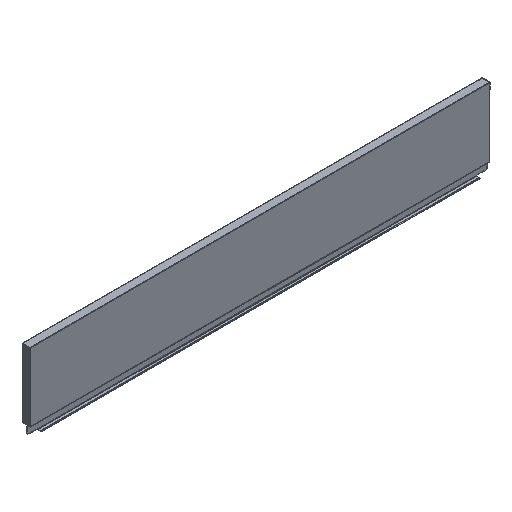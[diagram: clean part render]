
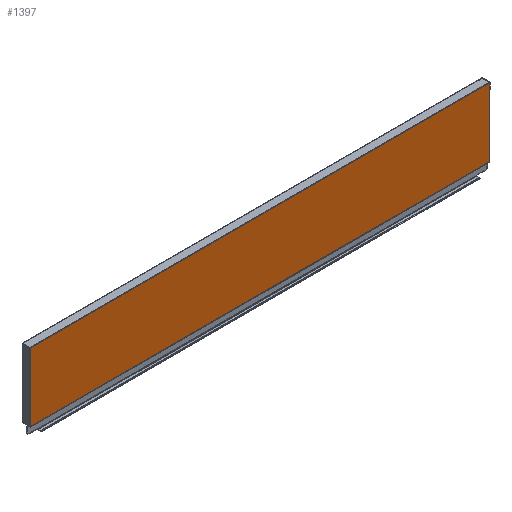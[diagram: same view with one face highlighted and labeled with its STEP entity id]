
A CAD part, isometric view. The second image highlights one B-rep face of the part: STEP entity #1397.
In plain terms, the highlighted planar face has unit normal (0, -1, 0).
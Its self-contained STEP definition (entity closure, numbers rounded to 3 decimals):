
#44 = VERTEX_POINT ( 'NONE', #445 ) ;
#307 = CARTESIAN_POINT ( 'NONE',  ( -453.5, -6., 17. ) ) ;
#331 = CARTESIAN_POINT ( 'NONE',  ( 454., -6., 152. ) ) ;
#336 = CARTESIAN_POINT ( 'NONE',  ( -454., -6., 151.5 ) ) ;
#355 = CARTESIAN_POINT ( 'NONE',  ( -453.5, -6., 17.5 ) ) ;
#356 = CARTESIAN_POINT ( 'NONE',  ( -454., -6., 17.5 ) ) ;
#363 = CARTESIAN_POINT ( 'NONE',  ( 453.5, -6., 17. ) ) ;
#370 = CARTESIAN_POINT ( 'NONE',  ( 454., -6., 17.5 ) ) ;
#373 = CARTESIAN_POINT ( 'NONE',  ( 453.5, -6., 17.5 ) ) ;
#382 = CARTESIAN_POINT ( 'NONE',  ( 454., -6., 151.5 ) ) ;
#445 = CARTESIAN_POINT ( 'NONE',  ( -454., -6., 152. ) ) ;
#457 = VERTEX_POINT ( 'NONE', #382 ) ;
#466 = VERTEX_POINT ( 'NONE', #373 ) ;
#470 = VERTEX_POINT ( 'NONE', #370 ) ;
#475 = VERTEX_POINT ( 'NONE', #363 ) ;
#485 = VERTEX_POINT ( 'NONE', #356 ) ;
#487 = VERTEX_POINT ( 'NONE', #355 ) ;
#520 = VERTEX_POINT ( 'NONE', #336 ) ;
#525 = VERTEX_POINT ( 'NONE', #331 ) ;
#546 = VERTEX_POINT ( 'NONE', #307 ) ;
#809 = ORIENTED_EDGE ( 'NONE', *, *, #2147, .T. ) ;
#810 = ORIENTED_EDGE ( 'NONE', *, *, #2148, .F. ) ;
#811 = ORIENTED_EDGE ( 'NONE', *, *, #2149, .F. ) ;
#812 = ORIENTED_EDGE ( 'NONE', *, *, #2482, .F. ) ;
#813 = ORIENTED_EDGE ( 'NONE', *, *, #2137, .T. ) ;
#814 = ORIENTED_EDGE ( 'NONE', *, *, #2138, .T. ) ;
#815 = ORIENTED_EDGE ( 'NONE', *, *, #2139, .T. ) ;
#816 = ORIENTED_EDGE ( 'NONE', *, *, #2140, .T. ) ;
#817 = ORIENTED_EDGE ( 'NONE', *, *, #2343, .T. ) ;
#818 = ORIENTED_EDGE ( 'NONE', *, *, #2340, .T. ) ;
#925 = FACE_OUTER_BOUND ( 'NONE', #1529, .T. ) ;
#932 = LINE ( 'NONE', #1949, #933 ) ;
#933 = VECTOR ( 'NONE', #1947, 1000. ) ;
#934 = LINE ( 'NONE', #1943, #935 ) ;
#935 = VECTOR ( 'NONE', #1939, 1000. ) ;
#936 = LINE ( 'NONE', #1936, #937 ) ;
#937 = VECTOR ( 'NONE', #1933, 1000. ) ;
#938 = LINE ( 'NONE', #1929, #939 ) ;
#939 = VECTOR ( 'NONE', #1926, 1000. ) ;
#952 = LINE ( 'NONE', #2106, #953 ) ;
#953 = VECTOR ( 'NONE', #2105, 1000. ) ;
#954 = LINE ( 'NONE', #2102, #955 ) ;
#955 = VECTOR ( 'NONE', #2101, 1000. ) ;
#956 = LINE ( 'NONE', #2100, #957 ) ;
#957 = VECTOR ( 'NONE', #2099, 1000. ) ;
#1298 = LINE ( 'NONE', #1800, #1299 ) ;
#1299 = VECTOR ( 'NONE', #1801, 1000. ) ;
#1301 = LINE ( 'NONE', #1808, #1303 ) ;
#1303 = VECTOR ( 'NONE', #1809, 1000. ) ;
#1314 = LINE ( 'NONE', #1824, #1315 ) ;
#1315 = VECTOR ( 'NONE', #1825, 1000. ) ;
#1397 = ADVANCED_FACE ( 'NONE', ( #925 ), #1992, .T. ) ;
#1529 = EDGE_LOOP ( 'NONE', ( #818, #817, #816, #815, #814, #813, #812, #811, #810, #809 ) ) ;
#1800 = CARTESIAN_POINT ( 'NONE',  ( -454., -6., 170.385 ) ) ;
#1801 = DIRECTION ( 'NONE',  ( 0., 0., -1. ) ) ;
#1808 = CARTESIAN_POINT ( 'NONE',  ( -455., -6., 17.5 ) ) ;
#1809 = DIRECTION ( 'NONE',  ( 1., 0., 0. ) ) ;
#1824 = CARTESIAN_POINT ( 'NONE',  ( 454., -6., 170.385 ) ) ;
#1825 = DIRECTION ( 'NONE',  ( 0., 0., -1. ) ) ;
#1926 = DIRECTION ( 'NONE',  ( 0., 0., -1. ) ) ;
#1929 = CARTESIAN_POINT ( 'NONE',  ( -453.5, -6., 17.5 ) ) ;
#1933 = DIRECTION ( 'NONE',  ( 1., 0., 0. ) ) ;
#1936 = CARTESIAN_POINT ( 'NONE',  ( -455., -6., 17. ) ) ;
#1939 = DIRECTION ( 'NONE',  ( 0., 0., 1. ) ) ;
#1943 = CARTESIAN_POINT ( 'NONE',  ( 453.5, -6., 15.3 ) ) ;
#1947 = DIRECTION ( 'NONE',  ( 1., 0., 0. ) ) ;
#1949 = CARTESIAN_POINT ( 'NONE',  ( 453.5, -6., 17.5 ) ) ;
#1984 = DIRECTION ( 'NONE',  ( 1., 0., 0. ) ) ;
#1988 = DIRECTION ( 'NONE',  ( 0., -1., 0. ) ) ;
#1989 = CARTESIAN_POINT ( 'NONE',  ( -455., -6., 17. ) ) ;
#1992 = PLANE ( 'NONE',  #2424 ) ;
#2099 = DIRECTION ( 'NONE',  ( 0., 0., -1. ) ) ;
#2100 = CARTESIAN_POINT ( 'NONE',  ( 454., -6., 170.385 ) ) ;
#2101 = DIRECTION ( 'NONE',  ( 1., 0., 0. ) ) ;
#2102 = CARTESIAN_POINT ( 'NONE',  ( -455., -6., 152. ) ) ;
#2105 = DIRECTION ( 'NONE',  ( 0., 0., -1. ) ) ;
#2106 = CARTESIAN_POINT ( 'NONE',  ( -454., -6., 170.385 ) ) ;
#2137 = EDGE_CURVE ( 'NONE', #466, #470, #932, .T. ) ;
#2138 = EDGE_CURVE ( 'NONE', #475, #466, #934, .T. ) ;
#2139 = EDGE_CURVE ( 'NONE', #546, #475, #936, .T. ) ;
#2140 = EDGE_CURVE ( 'NONE', #487, #546, #938, .T. ) ;
#2147 = EDGE_CURVE ( 'NONE', #44, #520, #952, .T. ) ;
#2148 = EDGE_CURVE ( 'NONE', #44, #525, #954, .T. ) ;
#2149 = EDGE_CURVE ( 'NONE', #525, #457, #956, .T. ) ;
#2340 = EDGE_CURVE ( 'NONE', #520, #485, #1298, .T. ) ;
#2343 = EDGE_CURVE ( 'NONE', #485, #487, #1301, .T. ) ;
#2424 = AXIS2_PLACEMENT_3D ( 'NONE', #1989, #1988, #1984 ) ;
#2482 = EDGE_CURVE ( 'NONE', #457, #470, #1314, .T. ) ;
